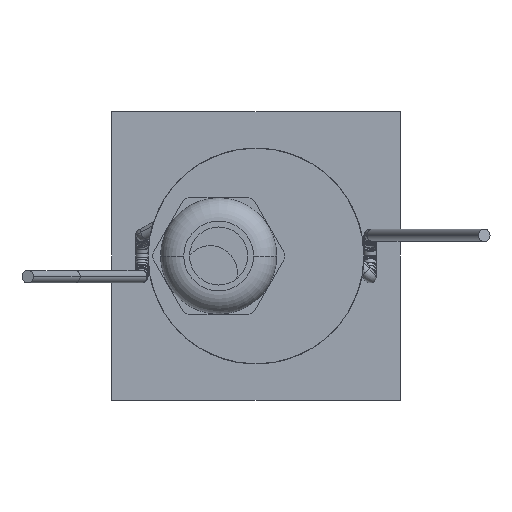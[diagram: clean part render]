
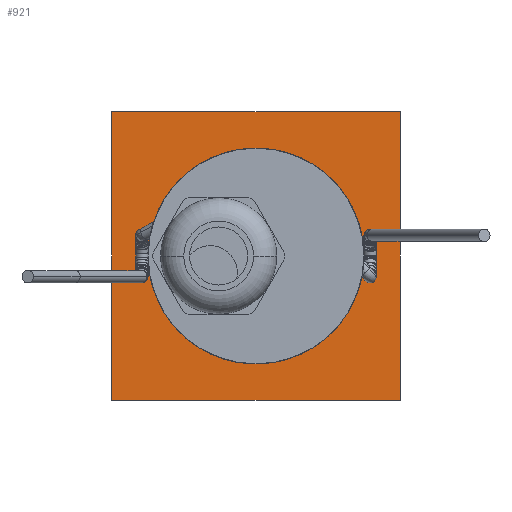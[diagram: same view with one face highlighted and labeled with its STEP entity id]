
A CAD part, front view. The second image highlights one B-rep face of the part: STEP entity #921.
In plain terms, the highlighted planar face has unit normal (0, -1, 0).
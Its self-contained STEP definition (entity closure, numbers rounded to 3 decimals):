
#688=CARTESIAN_POINT('',(0.,31.,0.));
#689=DIRECTION('',(0.,1.,0.));
#690=DIRECTION('',(0.962,0.,-0.275));
#691=AXIS2_PLACEMENT_3D('',#688,#689,#690);
#693=DIRECTION('',(0.,0.,-1.));
#694=VECTOR('',#693,7.141);
#695=CARTESIAN_POINT('',(12.5,31.,3.571));
#696=LINE('',#695,#694);
#697=CARTESIAN_POINT('',(0.,31.,0.));
#698=DIRECTION('',(0.,-1.,0.));
#699=DIRECTION('',(0.962,0.,0.275));
#700=AXIS2_PLACEMENT_3D('',#697,#698,#699);
#702=DIRECTION('',(0.,0.,1.));
#703=VECTOR('',#702,7.141);
#704=CARTESIAN_POINT('',(-12.5,31.,-3.571));
#705=LINE('',#704,#703);
#706=DIRECTION('',(0.,0.,-1.));
#707=VECTOR('',#706,34.8);
#708=CARTESIAN_POINT('',(17.4,31.,17.4));
#709=LINE('',#708,#707);
#710=DIRECTION('',(-1.,0.,0.));
#711=VECTOR('',#710,34.8);
#712=CARTESIAN_POINT('',(17.4,31.,-17.4));
#713=LINE('',#712,#711);
#714=DIRECTION('',(0.,0.,1.));
#715=VECTOR('',#714,34.8);
#716=CARTESIAN_POINT('',(-17.4,31.,-17.4));
#717=LINE('',#716,#715);
#718=DIRECTION('',(1.,0.,0.));
#719=VECTOR('',#718,34.8);
#720=CARTESIAN_POINT('',(-17.4,31.,17.4));
#721=LINE('',#720,#719);
#800=CARTESIAN_POINT('',(-12.5,31.,-3.571));
#801=CARTESIAN_POINT('',(-12.5,31.,3.571));
#802=VERTEX_POINT('',#800);
#803=VERTEX_POINT('',#801);
#804=CARTESIAN_POINT('',(12.5,31.,3.571));
#805=CARTESIAN_POINT('',(12.5,31.,-3.571));
#806=VERTEX_POINT('',#804);
#807=VERTEX_POINT('',#805);
#808=CARTESIAN_POINT('',(17.4,31.,17.4));
#809=CARTESIAN_POINT('',(17.4,31.,-17.4));
#810=VERTEX_POINT('',#808);
#811=VERTEX_POINT('',#809);
#812=CARTESIAN_POINT('',(-17.4,31.,-17.4));
#813=VERTEX_POINT('',#812);
#814=CARTESIAN_POINT('',(-17.4,31.,17.4));
#815=VERTEX_POINT('',#814);
#900=CARTESIAN_POINT('',(0.,31.,0.));
#901=DIRECTION('',(0.,-1.,0.));
#902=DIRECTION('',(-1.,0.,0.));
#903=AXIS2_PLACEMENT_3D('',#900,#901,#902);
#904=PLANE('',#903);
#906=ORIENTED_EDGE('',*,*,#905,.T.);
#908=ORIENTED_EDGE('',*,*,#907,.T.);
#910=ORIENTED_EDGE('',*,*,#909,.T.);
#912=ORIENTED_EDGE('',*,*,#911,.T.);
#913=EDGE_LOOP('',(#906,#908,#910,#912));
#914=FACE_OUTER_BOUND('',#913,.F.);
#915=ORIENTED_EDGE('',*,*,#881,.F.);
#916=ORIENTED_EDGE('',*,*,#894,.F.);
#917=ORIENTED_EDGE('',*,*,#847,.T.);
#918=ORIENTED_EDGE('',*,*,#865,.F.);
#919=EDGE_LOOP('',(#915,#916,#917,#918));
#920=FACE_BOUND('',#919,.F.);
#921=ADVANCED_FACE('',(#914,#920),#904,.T.);
#692=CIRCLE('',#691,13.);
#701=CIRCLE('',#700,13.);
#847=EDGE_CURVE('',#806,#803,#701,.T.);
#865=EDGE_CURVE('',#802,#803,#705,.T.);
#881=EDGE_CURVE('',#807,#802,#692,.T.);
#894=EDGE_CURVE('',#806,#807,#696,.T.);
#905=EDGE_CURVE('',#810,#811,#709,.T.);
#907=EDGE_CURVE('',#811,#813,#713,.T.);
#909=EDGE_CURVE('',#813,#815,#717,.T.);
#911=EDGE_CURVE('',#815,#810,#721,.T.);
